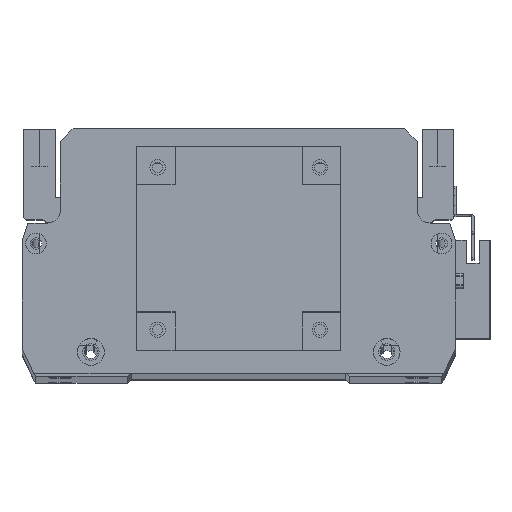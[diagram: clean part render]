
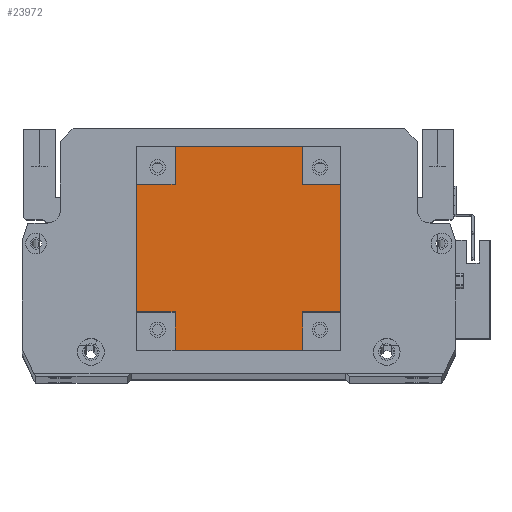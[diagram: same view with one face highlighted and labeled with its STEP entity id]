
A CAD part, top view. The second image highlights one B-rep face of the part: STEP entity #23972.
In plain terms, the highlighted planar face has unit normal (0, 0, 1).
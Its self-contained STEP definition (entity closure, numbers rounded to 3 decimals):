
#128 = CARTESIAN_POINT ( 'NONE',  ( 15., 0., 101.5 ) ) ;
#325 = CARTESIAN_POINT ( 'NONE',  ( 80., 15., 101.5 ) ) ;
#438 = ORIENTED_EDGE ( 'NONE', *, *, #19829, .F. ) ;
#612 = DIRECTION ( 'NONE',  ( -1., 0., 0. ) ) ;
#692 = VERTEX_POINT ( 'NONE', #1213 ) ;
#1079 = ORIENTED_EDGE ( 'NONE', *, *, #19114, .F. ) ;
#1213 = CARTESIAN_POINT ( 'NONE',  ( 80., 65., 101.5 ) ) ;
#2359 = CARTESIAN_POINT ( 'NONE',  ( 80., 15., 101.5 ) ) ;
#2467 = CARTESIAN_POINT ( 'NONE',  ( 65., 65., 101.5 ) ) ;
#2869 = VERTEX_POINT ( 'NONE', #16410 ) ;
#3334 = DIRECTION ( 'NONE',  ( 0., 1., 0. ) ) ;
#4064 = CARTESIAN_POINT ( 'NONE',  ( 0., 65., 101.5 ) ) ;
#4213 = VECTOR ( 'NONE', #8569, 1000. ) ;
#4311 = VECTOR ( 'NONE', #3334, 1000. ) ;
#4483 = CARTESIAN_POINT ( 'NONE',  ( 0., 15., 101.5 ) ) ;
#4503 = ORIENTED_EDGE ( 'NONE', *, *, #16205, .T. ) ;
#5323 = DIRECTION ( 'NONE',  ( -1., 0., 0. ) ) ;
#5489 = CARTESIAN_POINT ( 'NONE',  ( 0., 15., 101.5 ) ) ;
#5581 = CARTESIAN_POINT ( 'NONE',  ( 80., 0., 101.5 ) ) ;
#6270 = VECTOR ( 'NONE', #12978, 1000. ) ;
#6315 = CARTESIAN_POINT ( 'NONE',  ( 0., 0., 101.5 ) ) ;
#6856 = ORIENTED_EDGE ( 'NONE', *, *, #20527, .F. ) ;
#7072 = CARTESIAN_POINT ( 'NONE',  ( 65., 80., 101.5 ) ) ;
#7147 = EDGE_LOOP ( 'NONE', ( #13718, #11841, #1079, #4503, #20017, #438, #13635, #27002, #7336, #18106, #20234, #6856 ) ) ;
#7336 = ORIENTED_EDGE ( 'NONE', *, *, #20482, .F. ) ;
#7475 = CARTESIAN_POINT ( 'NONE',  ( 0., 80., 101.5 ) ) ;
#7639 = VECTOR ( 'NONE', #15457, 1000. ) ;
#8569 = DIRECTION ( 'NONE',  ( 0., 1., 0. ) ) ;
#8684 = VECTOR ( 'NONE', #9372, 1000. ) ;
#9265 = CARTESIAN_POINT ( 'NONE',  ( 15., 0., 101.5 ) ) ;
#9372 = DIRECTION ( 'NONE',  ( 0., -1., 0. ) ) ;
#10850 = LINE ( 'NONE', #21468, #4213 ) ;
#11474 = DIRECTION ( 'NONE',  ( 1., 0., 0. ) ) ;
#11591 = AXIS2_PLACEMENT_3D ( 'NONE', #16092, #18487, #5323 ) ;
#11841 = ORIENTED_EDGE ( 'NONE', *, *, #19106, .F. ) ;
#12150 = VECTOR ( 'NONE', #15636, 1000. ) ;
#12186 = LINE ( 'NONE', #6315, #6270 ) ;
#12256 = VERTEX_POINT ( 'NONE', #15300 ) ;
#12604 = CARTESIAN_POINT ( 'NONE',  ( 15., 65., 101.5 ) ) ;
#12978 = DIRECTION ( 'NONE',  ( 1., 0., 0. ) ) ;
#13445 = VERTEX_POINT ( 'NONE', #12604 ) ;
#13484 = LINE ( 'NONE', #128, #12150 ) ;
#13635 = ORIENTED_EDGE ( 'NONE', *, *, #16750, .T. ) ;
#13718 = ORIENTED_EDGE ( 'NONE', *, *, #18380, .T. ) ;
#14545 = VECTOR ( 'NONE', #25653, 1000. ) ;
#15130 = LINE ( 'NONE', #2467, #26354 ) ;
#15151 = CARTESIAN_POINT ( 'NONE',  ( 0., 0., 101.5 ) ) ;
#15215 = LINE ( 'NONE', #4064, #14545 ) ;
#15265 = LINE ( 'NONE', #7475, #20285 ) ;
#15300 = CARTESIAN_POINT ( 'NONE',  ( 65., 0., 101.5 ) ) ;
#15457 = DIRECTION ( 'NONE',  ( -1., 0., 0. ) ) ;
#15602 = DIRECTION ( 'NONE',  ( -1., 0., 0. ) ) ;
#15633 = VERTEX_POINT ( 'NONE', #27557 ) ;
#15636 = DIRECTION ( 'NONE',  ( 0., 1., 0. ) ) ;
#16092 = CARTESIAN_POINT ( 'NONE',  ( 0., 0., 101.5 ) ) ;
#16205 = EDGE_CURVE ( 'NONE', #22910, #17458, #27737, .T. ) ;
#16410 = CARTESIAN_POINT ( 'NONE',  ( 15., 80., 101.5 ) ) ;
#16435 = VERTEX_POINT ( 'NONE', #18119 ) ;
#16494 = VECTOR ( 'NONE', #15602, 1000. ) ;
#16618 = CARTESIAN_POINT ( 'NONE',  ( 65., 15., 101.5 ) ) ;
#16750 = EDGE_CURVE ( 'NONE', #18829, #12256, #12186, .T. ) ;
#17458 = VERTEX_POINT ( 'NONE', #5489 ) ;
#17486 = EDGE_CURVE ( 'NONE', #27407, #692, #27849, .T. ) ;
#17511 = VERTEX_POINT ( 'NONE', #16618 ) ;
#17842 = CARTESIAN_POINT ( 'NONE',  ( 0., 65., 101.5 ) ) ;
#18106 = ORIENTED_EDGE ( 'NONE', *, *, #17486, .T. ) ;
#18119 = CARTESIAN_POINT ( 'NONE',  ( 15., 15., 101.5 ) ) ;
#18380 = EDGE_CURVE ( 'NONE', #15633, #2869, #15265, .T. ) ;
#18487 = DIRECTION ( 'NONE',  ( 0., 0., -1. ) ) ;
#18829 = VERTEX_POINT ( 'NONE', #9265 ) ;
#19106 = EDGE_CURVE ( 'NONE', #13445, #2869, #10850, .T. ) ;
#19114 = EDGE_CURVE ( 'NONE', #22910, #13445, #15215, .T. ) ;
#19229 = LINE ( 'NONE', #4483, #7639 ) ;
#19787 = EDGE_CURVE ( 'NONE', #16435, #17458, #19229, .T. ) ;
#19829 = EDGE_CURVE ( 'NONE', #18829, #16435, #13484, .T. ) ;
#19948 = EDGE_CURVE ( 'NONE', #17511, #12256, #27706, .T. ) ;
#20017 = ORIENTED_EDGE ( 'NONE', *, *, #19787, .F. ) ;
#20157 = LINE ( 'NONE', #7072, #8684 ) ;
#20234 = ORIENTED_EDGE ( 'NONE', *, *, #20524, .F. ) ;
#20285 = VECTOR ( 'NONE', #612, 1000. ) ;
#20482 = EDGE_CURVE ( 'NONE', #27407, #17511, #21480, .T. ) ;
#20524 = EDGE_CURVE ( 'NONE', #23380, #692, #15130, .T. ) ;
#20527 = EDGE_CURVE ( 'NONE', #15633, #23380, #20157, .T. ) ;
#20565 = FACE_OUTER_BOUND ( 'NONE', #7147, .T. ) ;
#21468 = CARTESIAN_POINT ( 'NONE',  ( 15., 80., 101.5 ) ) ;
#21480 = LINE ( 'NONE', #2359, #16494 ) ;
#21533 = VECTOR ( 'NONE', #23557, 1000. ) ;
#22027 = CARTESIAN_POINT ( 'NONE',  ( 65., 65., 101.5 ) ) ;
#22910 = VERTEX_POINT ( 'NONE', #17842 ) ;
#23380 = VERTEX_POINT ( 'NONE', #22027 ) ;
#23557 = DIRECTION ( 'NONE',  ( 0., -1., 0. ) ) ;
#23972 = ADVANCED_FACE ( 'NONE', ( #20565 ), #26772, .F. ) ;
#24465 = CARTESIAN_POINT ( 'NONE',  ( 65., 0., 101.5 ) ) ;
#25653 = DIRECTION ( 'NONE',  ( 1., 0., 0. ) ) ;
#26354 = VECTOR ( 'NONE', #11474, 1000. ) ;
#26377 = VECTOR ( 'NONE', #26589, 1000. ) ;
#26589 = DIRECTION ( 'NONE',  ( 0., -1., 0. ) ) ;
#26772 = PLANE ( 'NONE',  #11591 ) ;
#27002 = ORIENTED_EDGE ( 'NONE', *, *, #19948, .F. ) ;
#27407 = VERTEX_POINT ( 'NONE', #325 ) ;
#27557 = CARTESIAN_POINT ( 'NONE',  ( 65., 80., 101.5 ) ) ;
#27706 = LINE ( 'NONE', #24465, #26377 ) ;
#27737 = LINE ( 'NONE', #15151, #21533 ) ;
#27849 = LINE ( 'NONE', #5581, #4311 ) ;
